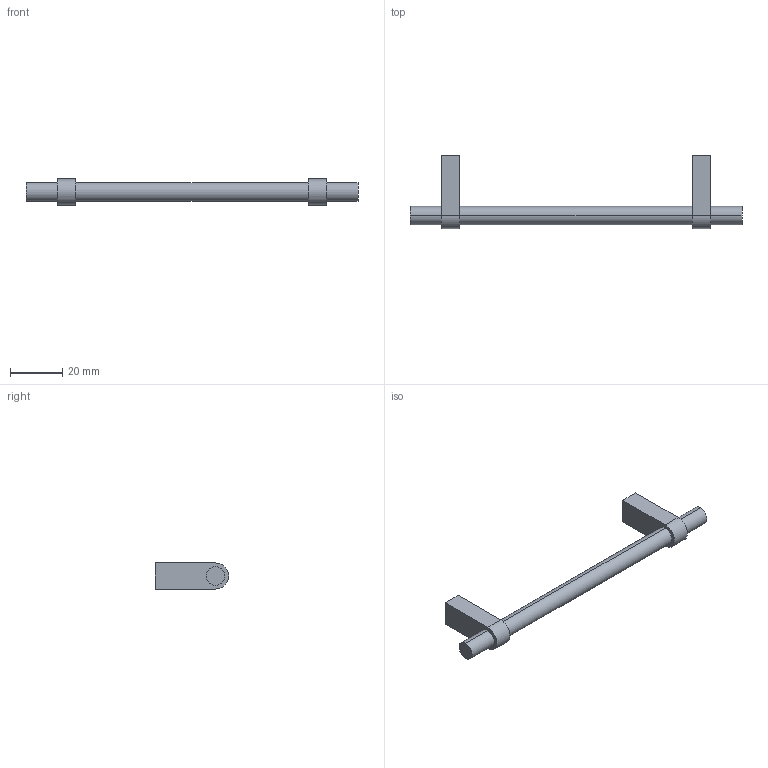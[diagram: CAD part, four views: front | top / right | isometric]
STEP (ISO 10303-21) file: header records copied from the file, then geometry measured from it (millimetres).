
FILE_DESCRIPTION( ( '' ), '1' );
FILE_NAME( 'D:/1.AUTOCAD EXPORT/Group 10/sheet_10_1/9071156.stp', '2013-10-18T08:48:01', ( '' ), ( '' ), ' ', ' ', ' ' );
FILE_SCHEMA( ( 'automotive_design' ) );
Length unit declared in the file: millimetre
Products named in the file (1): 1
Bounding box: 127 x 28 x 10 mm (x, y, z)
Volume: 7725.8 mm3; surface area: 4803.2 mm2
Topology: 1 solids, 1 shells, 26 faces, 54 edges, 36 vertices
Faces by surface type: plane 14, cylinder 12
Entity records: 1384 total; most frequent: DIRECTION 132, STYLED_ITEM 117, PRESENTATION_STYLE_ASSIGNMENT 117, CARTESIAN_POINT 117, COLOUR_RGB 117, ORIENTED_EDGE 108, EDGE_CURVE 54, CURVE_STYLE 54
